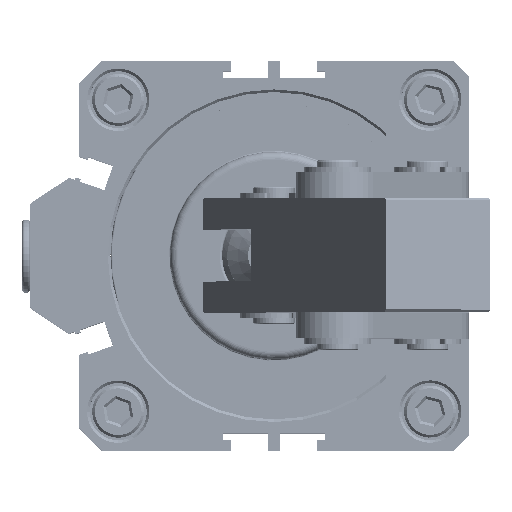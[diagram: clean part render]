
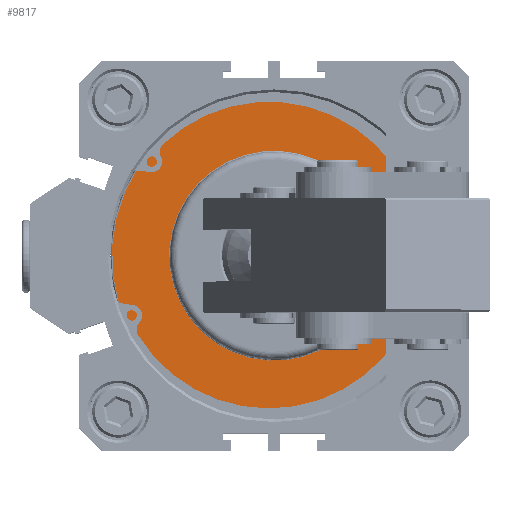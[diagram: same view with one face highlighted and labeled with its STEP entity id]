
A CAD part, top view. The second image highlights one B-rep face of the part: STEP entity #9817.
In plain terms, the highlighted planar face has unit normal (0, 0, 1) as drawn and (0, 1, 0) by its records, which use the part's own axes.
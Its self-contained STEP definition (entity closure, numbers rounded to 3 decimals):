
#547=FACE_BOUND('',#2936,.T.);
#639=PLANE('',#10729);
#2392=FACE_OUTER_BOUND('',#2935,.T.);
#2935=EDGE_LOOP('',(#6872,#6873));
#2936=EDGE_LOOP('',(#6874,#6875));
#3619=CIRCLE('',#10713,31.2);
#3620=CIRCLE('',#10714,31.2);
#3621=CIRCLE('',#10716,20.2);
#3622=CIRCLE('',#10717,20.2);
#4186=VERTEX_POINT('',#14900);
#4187=VERTEX_POINT('',#14902);
#4188=VERTEX_POINT('',#14906);
#4189=VERTEX_POINT('',#14907);
#5272=EDGE_CURVE('',#4186,#4187,#3619,.T.);
#5273=EDGE_CURVE('',#4187,#4186,#3620,.T.);
#5274=EDGE_CURVE('',#4188,#4189,#3621,.T.);
#5275=EDGE_CURVE('',#4189,#4188,#3622,.T.);
#6872=ORIENTED_EDGE('',*,*,#5273,.F.);
#6873=ORIENTED_EDGE('',*,*,#5272,.F.);
#6874=ORIENTED_EDGE('',*,*,#5274,.T.);
#6875=ORIENTED_EDGE('',*,*,#5275,.T.);
#9817=ADVANCED_FACE('',(#2392,#547),#639,.F.);
#10713=AXIS2_PLACEMENT_3D('',#14903,#11985,#11986);
#10714=AXIS2_PLACEMENT_3D('',#14904,#11987,#11988);
#10716=AXIS2_PLACEMENT_3D('',#14908,#11991,#11992);
#10717=AXIS2_PLACEMENT_3D('',#14909,#11993,#11994);
#10729=AXIS2_PLACEMENT_3D('',#14928,#12018,#12019);
#11985=DIRECTION('center_axis',(0.,-1.,0.));
#11986=DIRECTION('ref_axis',(0.,0.,-1.));
#11987=DIRECTION('center_axis',(0.,-1.,0.));
#11988=DIRECTION('ref_axis',(0.,0.,-1.));
#11991=DIRECTION('center_axis',(0.,-1.,0.));
#11992=DIRECTION('ref_axis',(0.,0.,-1.));
#11993=DIRECTION('center_axis',(0.,-1.,0.));
#11994=DIRECTION('ref_axis',(0.,0.,-1.));
#12018=DIRECTION('center_axis',(0.,-1.,0.));
#12019=DIRECTION('ref_axis',(0.,0.,-1.));
#14900=CARTESIAN_POINT('',(-5088.016,3920.593,31.2));
#14902=CARTESIAN_POINT('',(-5088.016,3920.593,-31.2));
#14903=CARTESIAN_POINT('Origin',(-5088.016,3920.593,0.));
#14904=CARTESIAN_POINT('Origin',(-5088.016,3920.593,0.));
#14906=CARTESIAN_POINT('',(-5088.016,3920.593,-20.2));
#14907=CARTESIAN_POINT('',(-5088.016,3920.593,20.2));
#14908=CARTESIAN_POINT('Origin',(-5088.016,3920.593,0.));
#14909=CARTESIAN_POINT('Origin',(-5088.016,3920.593,0.));
#14928=CARTESIAN_POINT('Origin',(-5107.641,3920.593,0.));
